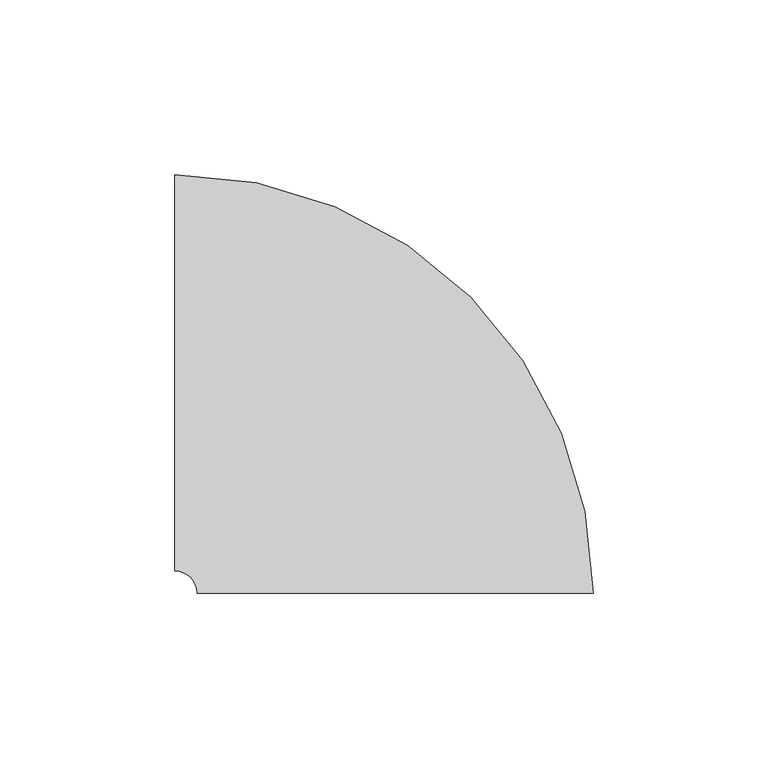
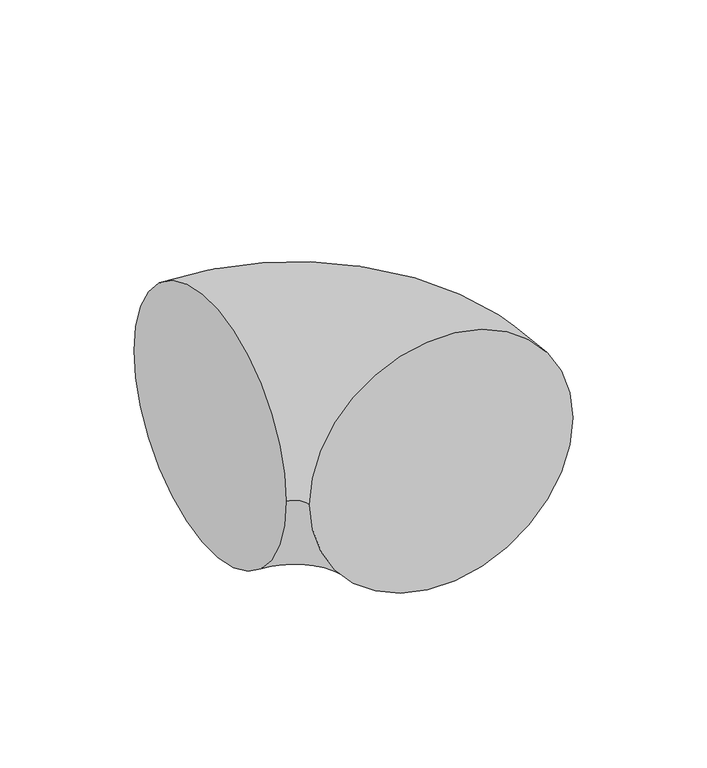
"""IFC4 building model written with IfcOpenShell, lengths in millimetres: pipe fitting geometry, M_Codo - Genérico : Estándar."""

from ifc_helpers import new_model, si_unit, point, frame, origin, place, context, project, spatial, circle_curve, ellipse_curve, trimmed, source, transform, mapped, element, save
from ifc_brep_helpers import plane_surface, revolved_surface, advanced_brep


def pipe_fitting_3b77712d(model_context):
    return source(origin(), model_context, "Body", "AdvancedBrep", [
        advanced_brep(
        [(-62.9375, 56.5875, 0.0), (-62.9375, -56.5875, 0.0), (56.5875, -62.9375, 0.0), (-56.5875, -62.9375, 0.0)],
        [
            (0, 1, circle_curve(frame((-62.9375, 0.0, 0.0), z_axis=(-1.0, 0.0, 0.0), x_axis=(0.0, -1.0, 0.0)), 56.5875)),
            (1, 0, circle_curve(frame((-62.9375, 0.0, 0.0), z_axis=(-1.0, 0.0, 0.0), x_axis=(0.0, -1.0, 0.0)), 56.5875)),
            (2, 3, circle_curve(frame((0.0, -62.9375, 0.0), z_axis=(0.0, -1.0, 0.0), x_axis=(-1.0, 0.0, 0.0)), 56.5875)),
            (3, 2, circle_curve(frame((0.0, -62.9375, 0.0), z_axis=(0.0, -1.0, 0.0), x_axis=(-1.0, 0.0, 0.0)), 56.5875)),
            (2, 0, circle_curve(frame((-62.9375, -62.9375, 0.0), z_axis=(0.0, 0.0, 1.0), x_axis=(0.0, 1.0, 0.0)), 119.525)),
            (1, 3, circle_curve(frame((-62.9375, -62.9375, 0.0), z_axis=(0.0, 0.0, -1.0), x_axis=(0.0, 1.0, 0.0)), 6.35)),
        ],
        [
            plane_surface(frame((-62.9375, 0.0, 0.0), z_axis=(-1.0, 0.0, 0.0), x_axis=(0.0, 0.0, 1.0))),
            plane_surface(frame((0.0, -62.9375, 0.0), z_axis=(0.0, -1.0, 0.0), x_axis=(0.0, 0.0, 1.0))),
            revolved_surface(trimmed(ellipse_curve(frame((-62.9375, 0.0, 0.0), z_axis=(1.0, 0.0, 0.0), x_axis=(0.0, -1.0, 0.0)), 56.5875, 56.5875), [point((-62.9375, 56.5875, 0.0))], [point((-62.9375, -56.5875, 0.0))], True, "CARTESIAN"), (-62.9375, -62.9375, 0.0), (0.0, 0.0, 1.0)),
            revolved_surface(trimmed(ellipse_curve(frame((-62.9375, 0.0, 0.0), z_axis=(1.0, 0.0, 0.0), x_axis=(0.0, -1.0, 0.0)), 56.5875, 56.5875), [point((-62.9375, -56.5875, 0.0))], [point((-62.9375, 56.5875, 0.0))], True, "CARTESIAN"), (-62.9375, -62.9375, 0.0), (0.0, 0.0, 1.0)),
        ],
        [
            (0, [[1, 2]]),
            (1, [[3, 4]]),
            (2, [[-3, 5, -2, 6]]),
            (3, [[-4, -6, -1, -5]]),
        ],
    ),
    ])


if __name__ == "__main__":
    model = new_model("IFC4")
    model_context = context("Model", 3, world=origin())
    ifc_project = project(units=[si_unit("LENGTHUNIT", "METRE", prefix="MILLI")], contexts=[model_context])
    site = spatial("IfcSite", under=ifc_project)
    building = spatial("IfcBuilding", under=site)
    placement = place(None, origin())
    pipe_fitting_shape = pipe_fitting_3b77712d(model_context)
    element("IfcPipeFitting", 1, ObjectType="M_Codo - Genérico : Estándar", at=placement, inside=building, context=model_context, shape_type="MappedRepresentation", body=[
        mapped(pipe_fitting_shape, transform((0.0, 0.0, 0.0), x_axis=(1.0, 0.0, 0.0), y_axis=(0.0, 1.0, 0.0), z_axis=(0.0, 0.0, 1.0))),
    ])
    save(model, "model.ifc")
